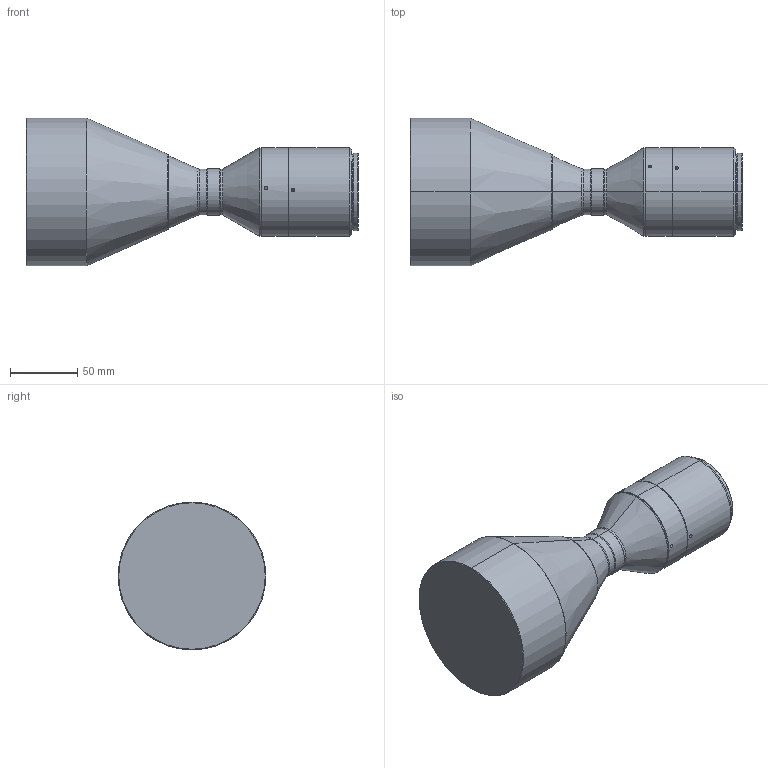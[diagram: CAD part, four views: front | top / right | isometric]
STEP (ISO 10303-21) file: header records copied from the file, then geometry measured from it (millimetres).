
FILE_DESCRIPTION (( 'STEP AP203' ), '1' );
FILE_NAME ('DTCM430-80H-M58-AL.STEP', '2019-11-14T09:11:30', ( 'Windows 蚚誧' ), ( '' ), 'SwSTEP 2.0', 'SolidWorks 2017', '' );
FILE_SCHEMA (( 'CONFIG_CONTROL_DESIGN' ));
Length unit declared in the file: millimetre
Products named in the file (1): DTCM430-80H-M58-AL
Bounding box: 247 x 110 x 110 mm (x, y, z)
Volume: 1121504.6 mm3; surface area: 74570.6 mm2
Topology: 1 solids, 1 shells, 79 faces, 178 edges, 102 vertices
Faces by surface type: cylinder 34, cone 30, plane 9, bspline 6
Entity records: 2821 total; most frequent: CARTESIAN_POINT 1048, DIRECTION 376, ORIENTED_EDGE 332, EDGE_CURVE 166, AXIS2_PLACEMENT_3D 156, VERTEX_POINT 102, EDGE_LOOP 92, CIRCLE 82
